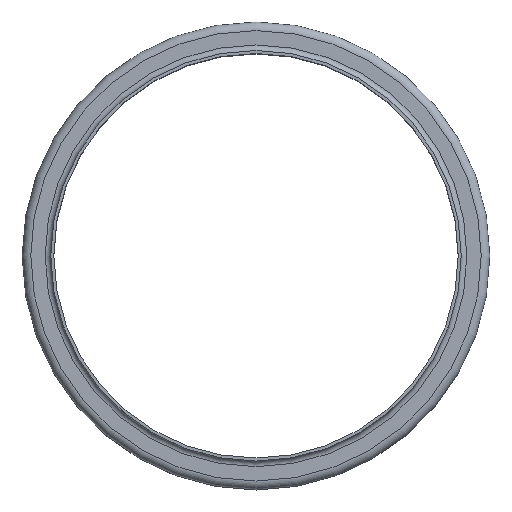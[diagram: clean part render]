
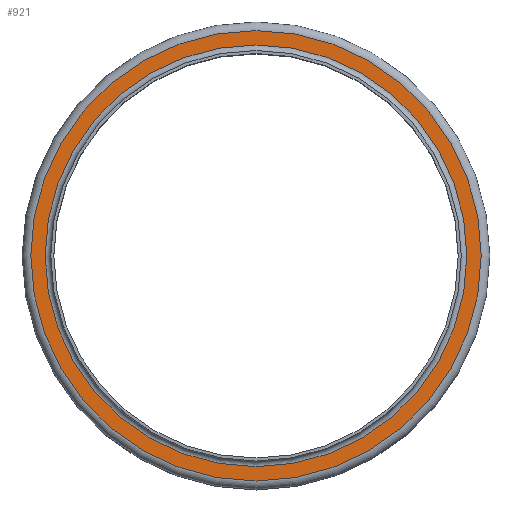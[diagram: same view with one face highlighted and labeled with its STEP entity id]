
A CAD part, top view. The second image highlights one B-rep face of the part: STEP entity #921.
In plain terms, the highlighted planar face has unit normal (0, 0, 1).
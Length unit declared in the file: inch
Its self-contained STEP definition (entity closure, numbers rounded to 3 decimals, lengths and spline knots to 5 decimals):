
#98=FACE_BOUND('',#272,.T.);
#165=FACE_OUTER_BOUND('',#271,.T.);
#271=EDGE_LOOP('',(#772));
#272=EDGE_LOOP('',(#773));
#385=CIRCLE('',#1110,8.34125);
#386=CIRCLE('',#1112,8.90875);
#466=VERTEX_POINT('',#1734);
#467=VERTEX_POINT('',#1738);
#571=EDGE_CURVE('',#466,#466,#385,.T.);
#572=EDGE_CURVE('',#467,#467,#386,.T.);
#772=ORIENTED_EDGE('',*,*,#572,.F.);
#773=ORIENTED_EDGE('',*,*,#571,.T.);
#854=PLANE('',#1111);
#921=ADVANCED_FACE('',(#165,#98),#854,.T.);
#1110=AXIS2_PLACEMENT_3D('',#1736,#1446,#1447);
#1111=AXIS2_PLACEMENT_3D('',#1737,#1448,#1449);
#1112=AXIS2_PLACEMENT_3D('',#1739,#1450,#1451);
#1446=DIRECTION('center_axis',(0.,0.,-1.));
#1447=DIRECTION('ref_axis',(1.,0.,0.));
#1448=DIRECTION('center_axis',(0.,0.,1.));
#1449=DIRECTION('ref_axis',(1.,0.,0.));
#1450=DIRECTION('center_axis',(0.,0.,-1.));
#1451=DIRECTION('ref_axis',(1.,0.,0.));
#1734=CARTESIAN_POINT('',(8.34125,0.,-0.22125));
#1736=CARTESIAN_POINT('Origin',(0.,0.,-0.22125));
#1737=CARTESIAN_POINT('Origin',(0.,8.90875,-0.22125));
#1738=CARTESIAN_POINT('',(8.90875,0.,-0.22125));
#1739=CARTESIAN_POINT('Origin',(0.,0.,-0.22125));
